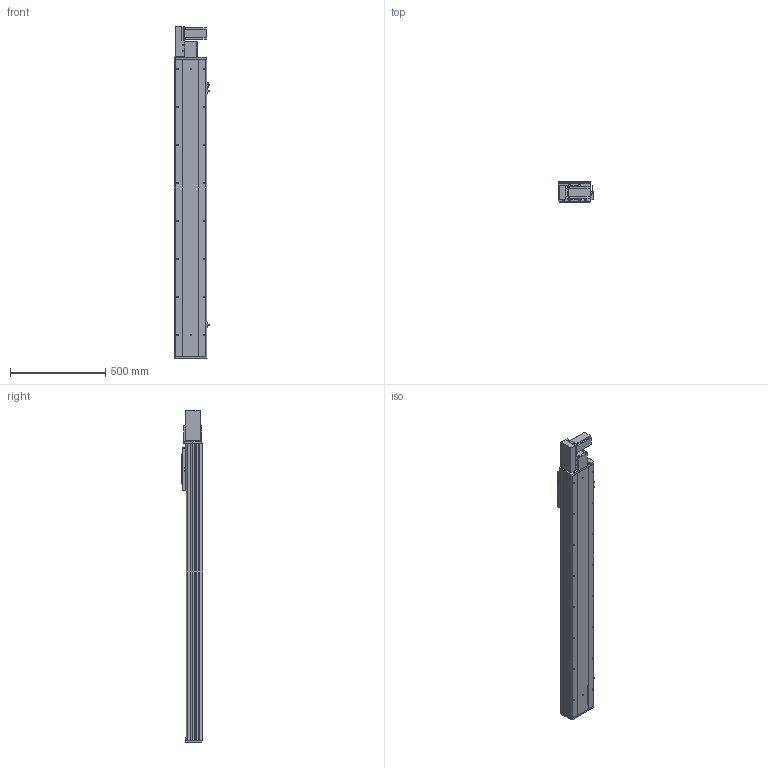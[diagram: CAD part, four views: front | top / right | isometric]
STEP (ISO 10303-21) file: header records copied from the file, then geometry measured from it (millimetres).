
FILE_DESCRIPTION (( 'STEP AP203' ), '1' );
FILE_NAME ('Y170CB-D105-S1250-BL-P400W.STEP', '2020-02-20T01:21:11', ( '微软用户' ), ( '微软中国' ), 'SwSTEP 2.0', 'SolidWorks 2017', '' );
FILE_SCHEMA (( 'CONFIG_CONTROL_DESIGN' ));
Length unit declared in the file: millimetre
Products named in the file (18): Y170CB-陔俋离換覜結え---; --70CB --喘謫眊楊擘啣-; 70B喘謫眊----; 70CB-耜裔啣-; Y1埴倛裔; 70C--詩湍揤踡え-; B-源倛裔啣; Y170CB-D105-S1250-BL-P400W; 70CB--耜裔; 17B-耜蚾蟀諉啣----; 70C-雄赽釱-奻-; 0B-萇儂楊擘啣; 0C--雄赽釱俋欶-170; san松下电机400不带刹车----; 70CB-詩湍--; Y70俋欶BR----; Y100-135俋离換覜ん--; 70CB-掛极-
Assembly tree (21 placements, depth 2):
  Y170CB-D105-S1250-BL-P400W
    B-源倛裔啣
    17B-耜蚾蟀諉啣----
    0B-萇儂楊擘啣
    san松下电机400不带刹车----
    Y70俋欶BR----
    70CB-掛极-
    --70CB --喘謫眊楊擘啣-
    70CB-耜裔啣-  x2
    70C--詩湍揤踡え-  x2
    70CB--耜裔
    70C-雄赽釱-奻-
    0C--雄赽釱俋欶-170
    70CB-詩湍--
    Y100-135俋离換覜ん--  x3
    Y170CB-陔俋离換覜結え---
    70B喘謫眊----
    Y1埴倛裔
Bounding box: 183.5 x 107 x 1747 mm (x, y, z)
Volume: 7522300.6 mm3; surface area: 2699461.4 mm2
Topology: 21 solids, 21 shells, 1015 faces, 2717 edges, 1802 vertices
Faces by surface type: cylinder 527, plane 464, cone 24
Entity records: 32320 total; most frequent: CARTESIAN_POINT 5916, DIRECTION 5254, ORIENTED_EDGE 4916, EDGE_CURVE 2458, AXIS2_PLACEMENT_3D 1924, VERTEX_POINT 1632, VECTOR 1406, LINE 1406
